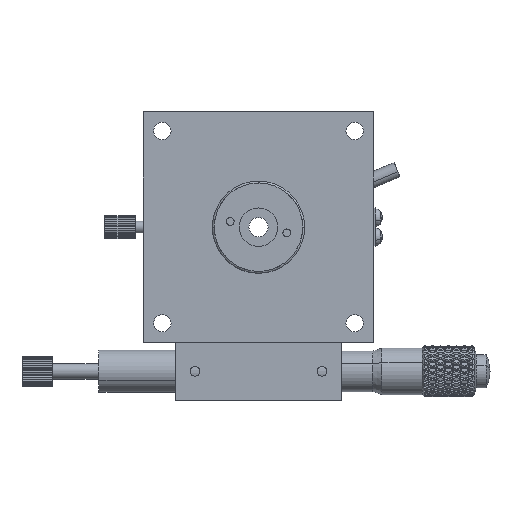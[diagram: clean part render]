
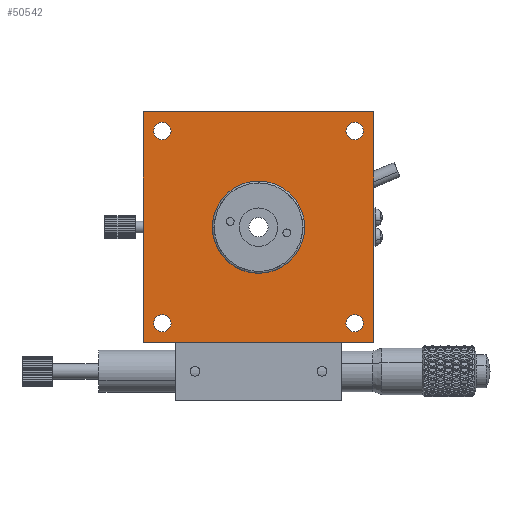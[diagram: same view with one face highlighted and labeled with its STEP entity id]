
A CAD part, front view. The second image highlights one B-rep face of the part: STEP entity #50542.
In plain terms, the highlighted planar face has unit normal (0, -1, 0).
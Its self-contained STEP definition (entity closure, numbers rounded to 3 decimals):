
#432 = DIRECTION ( 'NONE',  ( 0., 1., 0. ) ) ;
#711 = ORIENTED_EDGE ( 'NONE', *, *, #36505, .T. ) ;
#1952 = LINE ( 'NONE', #62998, #26367 ) ;
#2314 = ORIENTED_EDGE ( 'NONE', *, *, #32233, .T. ) ;
#2500 = CARTESIAN_POINT ( 'NONE',  ( -25., -4.75, -25. ) ) ;
#3248 = DIRECTION ( 'NONE',  ( 0., 0., -1. ) ) ;
#3960 = VERTEX_POINT ( 'NONE', #49045 ) ;
#4126 = CIRCLE ( 'NONE', #49220, 2.25 ) ;
#4210 = DIRECTION ( 'NONE',  ( 0., 1., 0. ) ) ;
#4248 = FACE_BOUND ( 'NONE', #38776, .T. ) ;
#6313 = LINE ( 'NONE', #33202, #56573 ) ;
#6358 = CARTESIAN_POINT ( 'NONE',  ( 0., -4.75, 0. ) ) ;
#6698 = VERTEX_POINT ( 'NONE', #36710 ) ;
#6844 = EDGE_LOOP ( 'NONE', ( #54877, #59343 ) ) ;
#7071 = VERTEX_POINT ( 'NONE', #50606 ) ;
#7406 = DIRECTION ( 'NONE',  ( 0., 0., 1. ) ) ;
#9335 = CARTESIAN_POINT ( 'NONE',  ( -25., -4.75, -27.25 ) ) ;
#9863 = CIRCLE ( 'NONE', #12792, 2.25 ) ;
#10044 = VECTOR ( 'NONE', #62357, 1000. ) ;
#10713 = CIRCLE ( 'NONE', #13424, 2.25 ) ;
#10735 = VERTEX_POINT ( 'NONE', #35099 ) ;
#11174 = DIRECTION ( 'NONE',  ( 0., 0., -1. ) ) ;
#11472 = CARTESIAN_POINT ( 'NONE',  ( 25., -4.75, 22.75 ) ) ;
#11475 = AXIS2_PLACEMENT_3D ( 'NONE', #21670, #55727, #26578 ) ;
#12318 = CARTESIAN_POINT ( 'NONE',  ( 0., -4.75, 12. ) ) ;
#12792 = AXIS2_PLACEMENT_3D ( 'NONE', #46829, #17649, #51700 ) ;
#13424 = AXIS2_PLACEMENT_3D ( 'NONE', #2500, #36605, #7406 ) ;
#14080 = CARTESIAN_POINT ( 'NONE',  ( 25., -4.75, -25. ) ) ;
#15465 = DIRECTION ( 'NONE',  ( 1., 0., 0. ) ) ;
#15661 = AXIS2_PLACEMENT_3D ( 'NONE', #61618, #32441, #3248 ) ;
#16076 = EDGE_LOOP ( 'NONE', ( #711, #47660 ) ) ;
#16700 = ORIENTED_EDGE ( 'NONE', *, *, #23509, .T. ) ;
#17149 = FACE_BOUND ( 'NONE', #16076, .T. ) ;
#17574 = EDGE_CURVE ( 'NONE', #26148, #7071, #53636, .T. ) ;
#17649 = DIRECTION ( 'NONE',  ( 0., 1., 0. ) ) ;
#17987 = EDGE_CURVE ( 'NONE', #10735, #42510, #4126, .T. ) ;
#19004 = DIRECTION ( 'NONE',  ( 0., 0., 1. ) ) ;
#19321 = CARTESIAN_POINT ( 'NONE',  ( -30., -4.75, 30. ) ) ;
#19471 = CARTESIAN_POINT ( 'NONE',  ( 30., -4.75, -30. ) ) ;
#19776 = CIRCLE ( 'NONE', #32430, 2.25 ) ;
#19835 = PLANE ( 'NONE',  #39504 ) ;
#20390 = CIRCLE ( 'NONE', #63079, 2.25 ) ;
#20434 = CARTESIAN_POINT ( 'NONE',  ( 25., -4.75, 25. ) ) ;
#21370 = EDGE_CURVE ( 'NONE', #45118, #36432, #60351, .T. ) ;
#21670 = CARTESIAN_POINT ( 'NONE',  ( -25., -4.75, 25. ) ) ;
#22278 = CARTESIAN_POINT ( 'NONE',  ( 30., -4.75, 30. ) ) ;
#23509 = EDGE_CURVE ( 'NONE', #36432, #33313, #1952, .T. ) ;
#24000 = CARTESIAN_POINT ( 'NONE',  ( -25., -4.75, -25. ) ) ;
#25369 = DIRECTION ( 'NONE',  ( 0., 0., 1. ) ) ;
#25529 = CARTESIAN_POINT ( 'NONE',  ( 25., -4.75, -25. ) ) ;
#26148 = VERTEX_POINT ( 'NONE', #12318 ) ;
#26367 = VECTOR ( 'NONE', #15465, 1000. ) ;
#26578 = DIRECTION ( 'NONE',  ( 0., 0., 1. ) ) ;
#27616 = EDGE_CURVE ( 'NONE', #53769, #38245, #50412, .T. ) ;
#28631 = FACE_OUTER_BOUND ( 'NONE', #54186, .T. ) ;
#28880 = DIRECTION ( 'NONE',  ( 0., 0., 1. ) ) ;
#28905 = EDGE_CURVE ( 'NONE', #52192, #52763, #10713, .T. ) ;
#29410 = ORIENTED_EDGE ( 'NONE', *, *, #28905, .T. ) ;
#29453 = ORIENTED_EDGE ( 'NONE', *, *, #29908, .T. ) ;
#29850 = ORIENTED_EDGE ( 'NONE', *, *, #43141, .F. ) ;
#29908 = EDGE_CURVE ( 'NONE', #42510, #10735, #63204, .T. ) ;
#30173 = FACE_BOUND ( 'NONE', #33561, .T. ) ;
#30292 = CARTESIAN_POINT ( 'NONE',  ( -30., -4.75, -30. ) ) ;
#30430 = DIRECTION ( 'NONE',  ( 0., 0., 1. ) ) ;
#30540 = CARTESIAN_POINT ( 'NONE',  ( -25., -4.75, -22.75 ) ) ;
#30782 = LINE ( 'NONE', #22278, #42199 ) ;
#32233 = EDGE_CURVE ( 'NONE', #52763, #52192, #20390, .T. ) ;
#32430 = AXIS2_PLACEMENT_3D ( 'NONE', #25529, #59610, #30430 ) ;
#32441 = DIRECTION ( 'NONE',  ( 0., -1., 0. ) ) ;
#33202 = CARTESIAN_POINT ( 'NONE',  ( -30., -4.75, 30. ) ) ;
#33313 = VERTEX_POINT ( 'NONE', #19471 ) ;
#33380 = CARTESIAN_POINT ( 'NONE',  ( -25., -4.75, 25. ) ) ;
#33561 = EDGE_LOOP ( 'NONE', ( #2314, #29410 ) ) ;
#34559 = DIRECTION ( 'NONE',  ( 0., 0., 1. ) ) ;
#35099 = CARTESIAN_POINT ( 'NONE',  ( -25., -4.75, 27.25 ) ) ;
#35165 = AXIS2_PLACEMENT_3D ( 'NONE', #14080, #48186, #19004 ) ;
#35570 = ORIENTED_EDGE ( 'NONE', *, *, #48192, .T. ) ;
#35872 = AXIS2_PLACEMENT_3D ( 'NONE', #6358, #40409, #11174 ) ;
#36432 = VERTEX_POINT ( 'NONE', #30292 ) ;
#36505 = EDGE_CURVE ( 'NONE', #38245, #53769, #9863, .T. ) ;
#36605 = DIRECTION ( 'NONE',  ( 0., 1., 0. ) ) ;
#36710 = CARTESIAN_POINT ( 'NONE',  ( 25., -4.75, -27.25 ) ) ;
#37760 = CIRCLE ( 'NONE', #35872, 12. ) ;
#38245 = VERTEX_POINT ( 'NONE', #54515 ) ;
#38318 = DIRECTION ( 'NONE',  ( 0., 0., 1. ) ) ;
#38776 = EDGE_LOOP ( 'NONE', ( #56307, #35570 ) ) ;
#39504 = AXIS2_PLACEMENT_3D ( 'NONE', #49005, #432, #34559 ) ;
#40198 = CARTESIAN_POINT ( 'NONE',  ( 30., -4.75, 30. ) ) ;
#40409 = DIRECTION ( 'NONE',  ( 0., -1., 0. ) ) ;
#40738 = AXIS2_PLACEMENT_3D ( 'NONE', #20434, #54495, #25369 ) ;
#41598 = FACE_BOUND ( 'NONE', #6844, .T. ) ;
#42199 = VECTOR ( 'NONE', #61281, 1000. ) ;
#42510 = VERTEX_POINT ( 'NONE', #53367 ) ;
#42807 = CIRCLE ( 'NONE', #35165, 2.25 ) ;
#42958 = DIRECTION ( 'NONE',  ( 1., 0., 0. ) ) ;
#43141 = EDGE_CURVE ( 'NONE', #45118, #52316, #6313, .T. ) ;
#45118 = VERTEX_POINT ( 'NONE', #19321 ) ;
#46004 = EDGE_CURVE ( 'NONE', #3960, #6698, #42807, .T. ) ;
#46829 = CARTESIAN_POINT ( 'NONE',  ( 25., -4.75, 25. ) ) ;
#47660 = ORIENTED_EDGE ( 'NONE', *, *, #27616, .T. ) ;
#48186 = DIRECTION ( 'NONE',  ( 0., 1., 0. ) ) ;
#48192 = EDGE_CURVE ( 'NONE', #6698, #3960, #19776, .T. ) ;
#49005 = CARTESIAN_POINT ( 'NONE',  ( -30., -4.75, 30. ) ) ;
#49045 = CARTESIAN_POINT ( 'NONE',  ( 25., -4.75, -22.75 ) ) ;
#49220 = AXIS2_PLACEMENT_3D ( 'NONE', #33380, #4210, #38318 ) ;
#50412 = CIRCLE ( 'NONE', #40738, 2.25 ) ;
#50542 = ADVANCED_FACE ( 'NONE', ( #30173, #54517, #17149, #4248, #41598, #28631 ), #19835, .F. ) ;
#50606 = CARTESIAN_POINT ( 'NONE',  ( 0., -4.75, -12. ) ) ;
#50946 = ORIENTED_EDGE ( 'NONE', *, *, #17987, .T. ) ;
#51051 = EDGE_CURVE ( 'NONE', #7071, #26148, #37760, .T. ) ;
#51700 = DIRECTION ( 'NONE',  ( 0., 0., 1. ) ) ;
#52192 = VERTEX_POINT ( 'NONE', #9335 ) ;
#52316 = VERTEX_POINT ( 'NONE', #40198 ) ;
#52460 = EDGE_CURVE ( 'NONE', #52316, #33313, #30782, .T. ) ;
#52763 = VERTEX_POINT ( 'NONE', #30540 ) ;
#53367 = CARTESIAN_POINT ( 'NONE',  ( -25., -4.75, 22.75 ) ) ;
#53636 = CIRCLE ( 'NONE', #15661, 12. ) ;
#53769 = VERTEX_POINT ( 'NONE', #11472 ) ;
#54186 = EDGE_LOOP ( 'NONE', ( #16700, #62683, #29850, #60196 ) ) ;
#54495 = DIRECTION ( 'NONE',  ( 0., 1., 0. ) ) ;
#54515 = CARTESIAN_POINT ( 'NONE',  ( 25., -4.75, 27.25 ) ) ;
#54517 = FACE_BOUND ( 'NONE', #62408, .T. ) ;
#54877 = ORIENTED_EDGE ( 'NONE', *, *, #51051, .F. ) ;
#55727 = DIRECTION ( 'NONE',  ( 0., 1., 0. ) ) ;
#56307 = ORIENTED_EDGE ( 'NONE', *, *, #46004, .T. ) ;
#56573 = VECTOR ( 'NONE', #42958, 1000. ) ;
#57461 = CARTESIAN_POINT ( 'NONE',  ( -30., -4.75, 30. ) ) ;
#58038 = DIRECTION ( 'NONE',  ( 0., 1., 0. ) ) ;
#59343 = ORIENTED_EDGE ( 'NONE', *, *, #17574, .F. ) ;
#59610 = DIRECTION ( 'NONE',  ( 0., 1., 0. ) ) ;
#60196 = ORIENTED_EDGE ( 'NONE', *, *, #21370, .T. ) ;
#60351 = LINE ( 'NONE', #57461, #10044 ) ;
#61281 = DIRECTION ( 'NONE',  ( 0., 0., -1. ) ) ;
#61618 = CARTESIAN_POINT ( 'NONE',  ( 0., -4.75, 0. ) ) ;
#62357 = DIRECTION ( 'NONE',  ( 0., 0., -1. ) ) ;
#62408 = EDGE_LOOP ( 'NONE', ( #50946, #29453 ) ) ;
#62683 = ORIENTED_EDGE ( 'NONE', *, *, #52460, .F. ) ;
#62998 = CARTESIAN_POINT ( 'NONE',  ( -30., -4.75, -30. ) ) ;
#63079 = AXIS2_PLACEMENT_3D ( 'NONE', #24000, #58038, #28880 ) ;
#63204 = CIRCLE ( 'NONE', #11475, 2.25 ) ;
